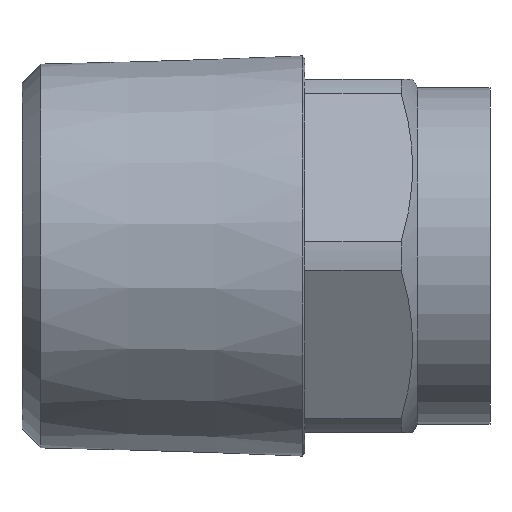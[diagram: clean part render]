
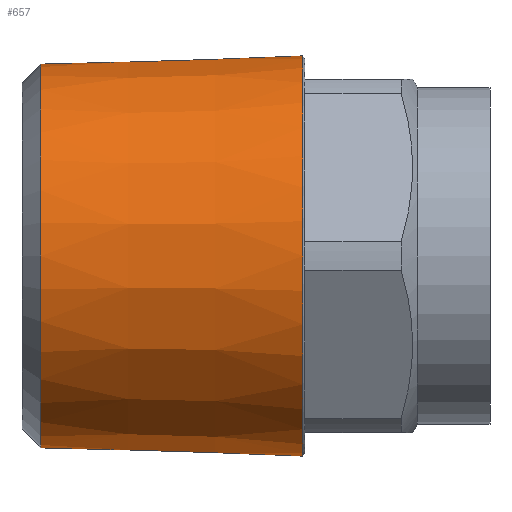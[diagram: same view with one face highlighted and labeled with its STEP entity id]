
A CAD part, front view. The second image highlights one B-rep face of the part: STEP entity #657.
In plain terms, the highlighted conical face has half-angle 1.79 degrees and reference radius 10.454 mm.
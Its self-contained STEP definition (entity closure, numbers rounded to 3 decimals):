
#606=CARTESIAN_POINT('',(1.,10.251,0.));
#607=VERTEX_POINT('',#606);
#608=CARTESIAN_POINT('',(1.,0.0,0.));
#609=DIRECTION('',(-1.0,0.0,0.0));
#610=DIRECTION('',(0.0,-1.0,0.0));
#611=AXIS2_PLACEMENT_3D('',#608,#609,#610);
#612=CIRCLE('',#611,10.251);
#613=EDGE_CURVE('',#607,#607,#612,.T.);
#638=CARTESIAN_POINT('',(7.5,0.0,0.0));
#639=DIRECTION('',(1.0,0.0,0.0));
#640=DIRECTION('',(0.0,1.0,0.0));
#641=AXIS2_PLACEMENT_3D('',#638,#639,#640);
#642=CONICAL_SURFACE('',#641,10.454,1.79);
#643=CARTESIAN_POINT('',(15.,10.689,0.0));
#644=VERTEX_POINT('',#643);
#645=CARTESIAN_POINT('',(15.,0.0,0.0));
#646=DIRECTION('',(1.0,0.0,0.0));
#647=DIRECTION('',(0.0,1.0,0.0));
#648=AXIS2_PLACEMENT_3D('',#645,#646,#647);
#649=CIRCLE('',#648,10.689);
#650=EDGE_CURVE('',#644,#644,#649,.T.);
#651=ORIENTED_EDGE('',*,*,#650,.F.);
#652=EDGE_LOOP('',(#651));
#653=FACE_OUTER_BOUND('',#652,.T.);
#654=ORIENTED_EDGE('',*,*,#613,.F.);
#655=EDGE_LOOP('',(#654));
#656=FACE_BOUND('',#655,.T.);
#657=ADVANCED_FACE('',(#653,#656),#642,.T.);
